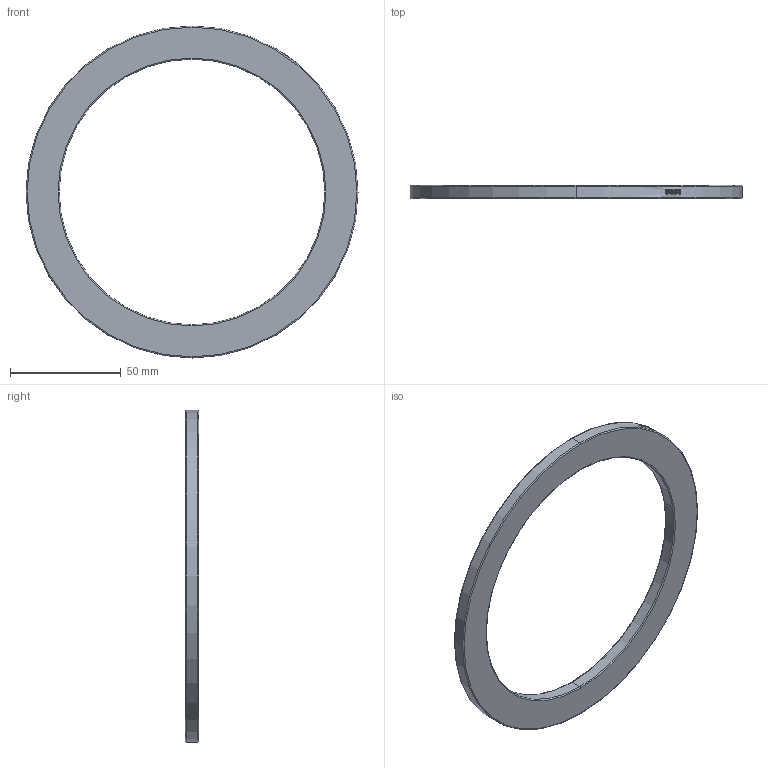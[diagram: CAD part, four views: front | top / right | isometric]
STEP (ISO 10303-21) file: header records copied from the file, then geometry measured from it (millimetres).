
FILE_DESCRIPTION (( 'STEP AP203' ), '1' );
FILE_NAME ('120X150XX6.STEP', '2017-08-13T07:38:52', ( '' ), ( '' ), 'SwSTEP 2.0', 'SolidWorks 2014', '' );
FILE_SCHEMA (( 'CONFIG_CONTROL_DESIGN' ));
Length unit declared in the file: millimetre
Products named in the file (1): 120X150XX6
Bounding box: 150 x 6 x 150 mm (x, y, z)
Volume: 38071.2 mm3; surface area: 17464 mm2
Topology: 1 solids, 1 shells, 98 faces, 259 edges, 170 vertices
Faces by surface type: plane 47, bspline 32, cylinder 11, torus 8
Entity records: 6629 total; most frequent: CARTESIAN_POINT 4381, ORIENTED_EDGE 518, DIRECTION 340, EDGE_CURVE 259, VERTEX_POINT 170, AXIS2_PLACEMENT_3D 129, B_SPLINE_CURVE_WITH_KNOTS 115, EDGE_LOOP 107
